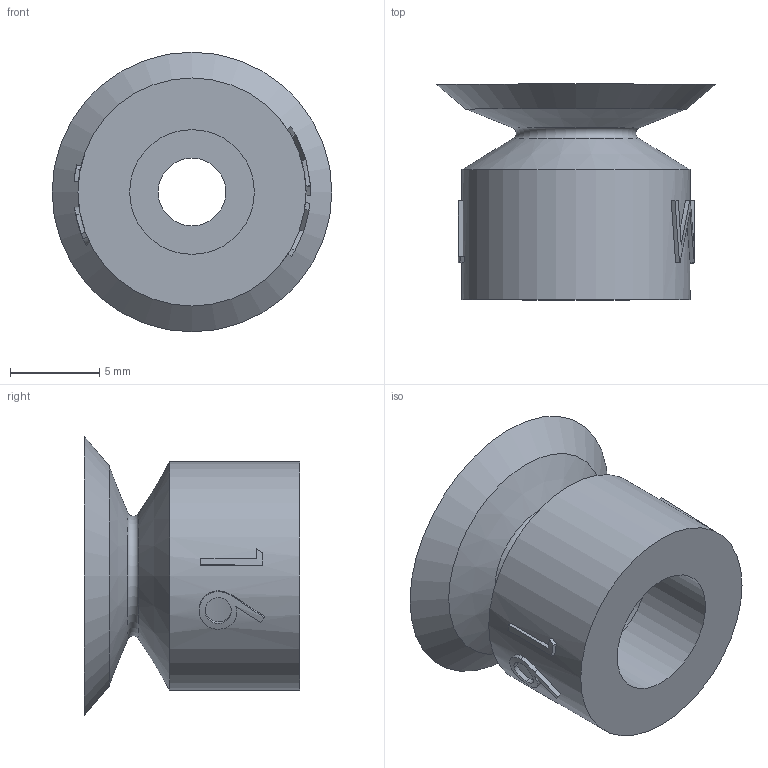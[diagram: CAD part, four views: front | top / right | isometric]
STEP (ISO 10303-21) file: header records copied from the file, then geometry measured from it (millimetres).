
FILE_DESCRIPTION (( 'STEP AP214' ), '1' );
FILE_NAME ('10f.016.006.02.STEP', '2026-03-17T14:55:11', ( '' ), ( '' ), 'SwSTEP 2.0', 'SolidWorks 2025', '' );
FILE_SCHEMA (( 'AUTOMOTIVE_DESIGN' ));
Length unit declared in the file: millimetre
Products named in the file (1): 10f.016.006.02
Bounding box: 15.7 x 12.1 x 15.7 mm (x, y, z)
Volume: 867.9 mm3; surface area: 1273.4 mm2
Topology: 1 solids, 1 shells, 138 faces, 369 edges, 244 vertices
Faces by surface type: plane 60, bspline 37, cylinder 33, cone 6, torus 2
Full cylindrical faces by diameter (mm): 3.8 x1, 7 x1, 10.3 x1, 12.8 x1
Entity records: 5568 total; most frequent: CARTESIAN_POINT 2473, ORIENTED_EDGE 710, DIRECTION 486, EDGE_CURVE 355, VERTEX_POINT 242, AXIS2_PLACEMENT_3D 168, EDGE_LOOP 163, VECTOR 150
